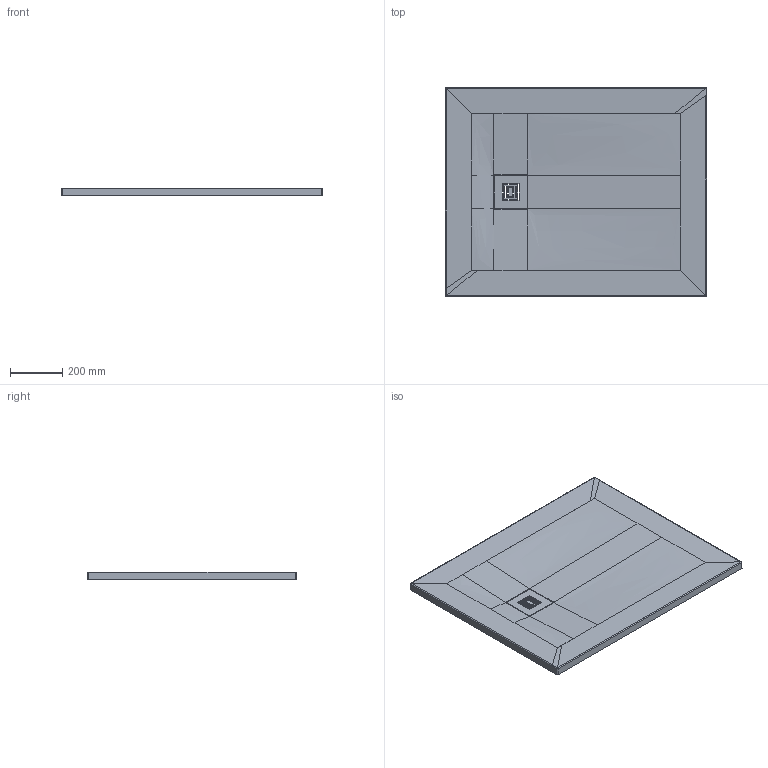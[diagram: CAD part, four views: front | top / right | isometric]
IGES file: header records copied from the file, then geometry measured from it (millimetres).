
Global section: file name: d:\users\matthias.isele\Desktop\planungsdaten\W&W\Sustano\720273\720273.igs; native system: Rhinoceros ( Sep 13 2016 ); preprocessor: Trout Lake IGES 012 Sep 13 2016; date: 220210.064230; units: millimetre
Bounding box: 1000 x 800 x 29.8 mm (x, y, z)
Surface area: 914090.9 mm2 (no closed solid volume)
Topology: 0 solids, 0 shells, 128 faces, 724 edges, 723 vertices
Faces by surface type: bspline 128
